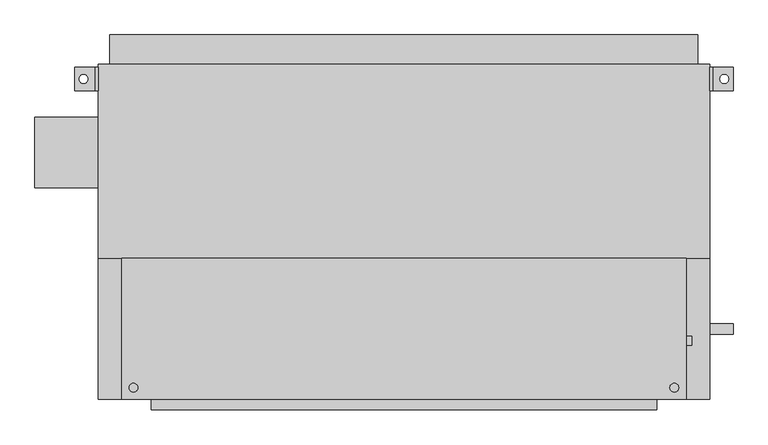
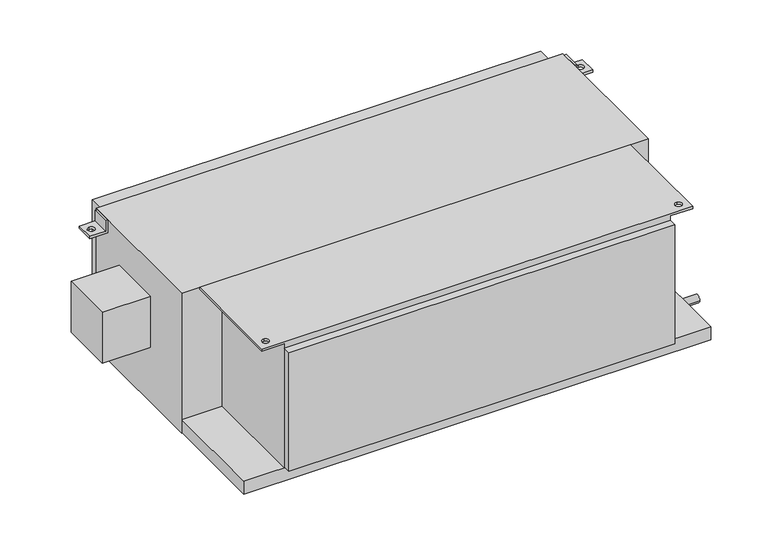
"""IFC4 building model written with IfcOpenShell, lengths in millimetres: proxy geometry, Concealed_High_Capacity_Horizontal_Fan_Coil_Unit_With_Plenum_-_42DCA_-_CARRIER_-_2-Pipe_Cool-EHeat_RH_2022 : Size 18 - 277v/60Hz/1Ph - 6 Row 12.0kW."""

from ifc_helpers import new_model, si_unit, point, frame, frame_2d, origin, place, context, project, spatial, polyline, circle_curve, trimmed, segment, composite_curve, outline, extrude, source, transform, mapped, element, save
from ifc_brep_helpers import plane_surface, revolved_surface, advanced_brep


def mechanical_equipment_08b20254(model_context):
    return source(origin(), model_context, "Body", "SolidModel", [
        advanced_brep(
        [(-508.0, 327.025, -38.1), (-558.8, 327.025, -38.1), (-558.8, 327.025, -31.75), (-514.35, 327.025, -31.75), (-514.35, 327.025, 0.0), (-508.0, 327.025, 0.0), (-508.0, 276.225, -38.1), (-508.0, 276.225, 0.0), (-514.35, 276.225, 0.0), (-514.35, 276.225, -31.75), (-558.8, 276.225, -31.75), (-558.8, 276.225, -38.1), (-539.75, 292.1, -38.1), (-539.75, 311.15, -38.1), (-539.75, 311.15, -31.75), (-539.75, 292.1, -31.75)],
        [
            (0, 1),
            (1, 2),
            (2, 3),
            (3, 4),
            (4, 5),
            (5, 0),
            (6, 7),
            (7, 8),
            (8, 9),
            (9, 10),
            (10, 11),
            (11, 6),
            (0, 6),
            (11, 1),
            (12, 13, circle_curve(frame((-539.75, 301.625, -38.1), z_axis=(0.0, 0.0, 1.0), x_axis=(0.0, -1.0, 0.0)), 9.525)),
            (13, 12, circle_curve(frame((-539.75, 301.625, -38.1), z_axis=(0.0, 0.0, 1.0), x_axis=(0.0, -1.0, 0.0)), 9.525)),
            (10, 2),
            (9, 3),
            (14, 15, circle_curve(frame((-539.75, 301.625, -31.75), z_axis=(0.0, 0.0, -1.0), x_axis=(0.0, -1.0, 0.0)), 9.525)),
            (15, 14, circle_curve(frame((-539.75, 301.625, -31.75), z_axis=(0.0, 0.0, -1.0), x_axis=(0.0, -1.0, 0.0)), 9.525)),
            (8, 4),
            (7, 5),
            (14, 13),
            (12, 15),
        ],
        [
            plane_surface(frame((-508.0, 327.025, -38.1), z_axis=(0.0, 1.0, 0.0), x_axis=(-1.0, 0.0, 0.0))),
            plane_surface(frame((-508.0, 276.225, -38.1), z_axis=(0.0, -1.0, 0.0), x_axis=(1.0, 0.0, 0.0))),
            plane_surface(frame((-508.0, 327.025, -38.1), z_axis=(0.0, 0.0, -1.0), x_axis=(0.0, -1.0, 0.0))),
            plane_surface(frame((-558.8, 327.025, -38.1), z_axis=(-1.0, 0.0, 0.0), x_axis=(0.0, -1.0, 0.0))),
            plane_surface(frame((-558.8, 327.025, -31.75), z_axis=(0.0, 0.0, 1.0), x_axis=(0.0, -1.0, 0.0))),
            plane_surface(frame((-514.35, 327.025, -31.75), z_axis=(-1.0, 0.0, 0.0), x_axis=(0.0, -1.0, 0.0))),
            plane_surface(frame((-514.35, 327.025, 0.0), z_axis=(0.0, 0.0, 1.0), x_axis=(0.0, -1.0, 0.0))),
            plane_surface(frame((-508.0, 327.025, 0.0), z_axis=(1.0, 0.0, 0.0), x_axis=(0.0, -1.0, 0.0))),
            revolved_surface(polyline([(-539.75, 292.1, -38.1), (-539.75, 292.1, -31.75)]), (-539.75, 301.625, -31.75), (0.0, 0.0, -1.0)),
        ],
        [
            (0, [[1, 2, 3, 4, 5, 6]]),
            (1, [[7, 8, 9, 10, 11, 12]]),
            (2, [[-1, 13, -12, 14], [15, 16]]),
            (3, [[-2, -14, -11, 17]]),
            (4, [[-3, -17, -10, 18], [19, 20]]),
            (5, [[-4, -18, -9, 21]]),
            (6, [[-5, -21, -8, 22]]),
            (7, [[-6, -22, -7, -13]]),
            (8, [[23, -15, 24, -19]]),
            (8, [[-23, -20, -24, -16]]),
        ],
    ),
        advanced_brep(
        [(812.8, 327.025, -38.1), (812.8, 327.025, 0.0), (819.15, 327.025, 0.0), (819.15, 327.025, -31.75), (863.6, 327.025, -31.75), (863.6, 327.025, -38.1), (812.8, 276.225, -38.1), (863.6, 276.225, -38.1), (863.6, 276.225, -31.75), (819.15, 276.225, -31.75), (819.15, 276.225, 0.0), (812.8, 276.225, 0.0), (844.55, 311.15, -31.75), (844.55, 292.1, -31.75), (844.55, 292.1, -38.1), (844.55, 311.15, -38.1)],
        [
            (0, 1),
            (1, 2),
            (2, 3),
            (3, 4),
            (4, 5),
            (5, 0),
            (6, 7),
            (7, 8),
            (8, 9),
            (9, 10),
            (10, 11),
            (11, 6),
            (0, 6),
            (11, 1),
            (10, 2),
            (9, 3),
            (8, 4),
            (12, 13, circle_curve(frame((844.55, 301.625, -31.75), z_axis=(0.0, 0.0, -1.0), x_axis=(0.0, -1.0, 0.0)), 9.525)),
            (13, 12, circle_curve(frame((844.55, 301.625, -31.75), z_axis=(0.0, 0.0, -1.0), x_axis=(0.0, -1.0, 0.0)), 9.525)),
            (7, 5),
            (14, 15, circle_curve(frame((844.55, 301.625, -38.1), z_axis=(0.0, 0.0, 1.0), x_axis=(0.0, -1.0, 0.0)), 9.525)),
            (15, 14, circle_curve(frame((844.55, 301.625, -38.1), z_axis=(0.0, 0.0, 1.0), x_axis=(0.0, -1.0, 0.0)), 9.525)),
            (12, 15),
            (14, 13),
        ],
        [
            plane_surface(frame((-508.0, 327.025, -38.1), z_axis=(0.0, 1.0, 0.0), x_axis=(-1.0, 0.0, 0.0))),
            plane_surface(frame((-508.0, 276.225, -38.1), z_axis=(0.0, -1.0, 0.0), x_axis=(1.0, 0.0, 0.0))),
            plane_surface(frame((812.8, 327.025, -38.1), z_axis=(-1.0, 0.0, 0.0), x_axis=(0.0, -1.0, 0.0))),
            plane_surface(frame((812.8, 327.025, 0.0), z_axis=(0.0, 0.0, 1.0), x_axis=(0.0, -1.0, 0.0))),
            plane_surface(frame((819.15, 327.025, 0.0), z_axis=(1.0, 0.0, 0.0), x_axis=(0.0, -1.0, 0.0))),
            plane_surface(frame((819.15, 327.025, -31.75), z_axis=(0.0, 0.0, 1.0), x_axis=(0.0, -1.0, 0.0))),
            plane_surface(frame((863.6, 327.025, -31.75), z_axis=(1.0, 0.0, 0.0), x_axis=(0.0, -1.0, 0.0))),
            plane_surface(frame((863.6, 327.025, -38.1), z_axis=(0.0, 0.0, -1.0), x_axis=(0.0, -1.0, 0.0))),
            revolved_surface(polyline([(844.55, 292.1, -38.1), (844.55, 292.1, -31.75)]), (844.55, 301.625, -31.75), (0.0, 0.0, -1.0)),
        ],
        [
            (0, [[1, 2, 3, 4, 5, 6]]),
            (1, [[7, 8, 9, 10, 11, 12]]),
            (2, [[-1, 13, -12, 14]]),
            (3, [[-2, -14, -11, 15]]),
            (4, [[-3, -15, -10, 16]]),
            (5, [[-4, -16, -9, 17], [18, 19]]),
            (6, [[-5, -17, -8, 20]]),
            (7, [[-6, -20, -7, -13], [21, 22]]),
            (8, [[23, -21, 24, -18]]),
            (8, [[-23, -19, -24, -22]]),
        ],
    ),
        advanced_brep(
        [(698.5, -85.725, -377.825), (698.5, -390.525, -377.825), (-393.7, -390.525, -377.825), (-393.7, -85.725, -377.825), (-393.7, -390.525, -6.35), (-393.7, -85.725, -6.35), (698.5, -85.725, -6.35), (698.5, -390.525, -6.35), (-457.2, -85.725, -6.35), (-457.2, -390.525, -6.35), (-431.8, -355.6, -6.35), (-431.8, -374.65, -6.35), (762.0, -85.725, -6.35), (762.0, -390.525, -6.35), (736.6, -355.6, -6.35), (736.6, -374.65, -6.35), (-457.2, -85.725, 0.0), (-457.2, -390.525, 0.0), (762.0, -390.525, 0.0), (762.0, -85.725, 0.0), (-431.8, -374.65, 0.0), (-431.8, -355.6, 0.0), (736.6, -374.65, 0.0), (736.6, -355.6, 0.0)],
        [
            (0, 1),
            (1, 2),
            (2, 3),
            (3, 0),
            (2, 4),
            (4, 5),
            (5, 3),
            (0, 6),
            (6, 7),
            (7, 1),
            (8, 5),
            (4, 9),
            (9, 8),
            (10, 11, circle_curve(frame((-431.8, -365.125, -6.35), z_axis=(0.0, 0.0, 1.0), x_axis=(0.0, 1.0, 0.0)), 9.525)),
            (11, 10, circle_curve(frame((-431.8, -365.125, -6.35), z_axis=(0.0, 0.0, 1.0), x_axis=(0.0, 1.0, 0.0)), 9.525)),
            (12, 13),
            (13, 7),
            (6, 12),
            (14, 15, circle_curve(frame((736.6, -365.125, -6.35), z_axis=(0.0, 0.0, 1.0), x_axis=(0.0, 1.0, 0.0)), 9.525)),
            (15, 14, circle_curve(frame((736.6, -365.125, -6.35), z_axis=(0.0, 0.0, 1.0), x_axis=(0.0, 1.0, 0.0)), 9.525)),
            (16, 17),
            (17, 18),
            (18, 19),
            (19, 16),
            (20, 21, circle_curve(frame((-431.8, -365.125, 0.0), z_axis=(0.0, 0.0, -1.0), x_axis=(0.0, 1.0, 0.0)), 9.525)),
            (21, 20, circle_curve(frame((-431.8, -365.125, 0.0), z_axis=(0.0, 0.0, -1.0), x_axis=(0.0, 1.0, 0.0)), 9.525)),
            (22, 23, circle_curve(frame((736.6, -365.125, 0.0), z_axis=(0.0, 0.0, -1.0), x_axis=(0.0, 1.0, 0.0)), 9.525)),
            (23, 22, circle_curve(frame((736.6, -365.125, 0.0), z_axis=(0.0, 0.0, -1.0), x_axis=(0.0, 1.0, 0.0)), 9.525)),
            (9, 17),
            (16, 8),
            (13, 18),
            (19, 12),
            (20, 11),
            (10, 21),
            (22, 15),
            (14, 23),
        ],
        [
            plane_surface(frame((-393.7, -85.725, -377.825), z_axis=(0.0, 0.0, -1.0), x_axis=(1.0, 0.0, 0.0))),
            plane_surface(frame((-393.7, -85.725, 0.0), z_axis=(-1.0, 0.0, 0.0), x_axis=(0.0, 0.0, -1.0))),
            plane_surface(frame((698.5, -390.525, 0.0), z_axis=(1.0, 0.0, 0.0), x_axis=(0.0, 0.0, -1.0))),
            plane_surface(frame((-457.2, -85.725, -6.35), z_axis=(0.0, 0.0, -1.0), x_axis=(0.0, 1.0, 0.0))),
            plane_surface(frame((-457.2, -85.725, 0.0), z_axis=(0.0, 0.0, 1.0), x_axis=(0.0, -1.0, 0.0))),
            plane_surface(frame((-457.2, -85.725, 0.0), z_axis=(-1.0, 0.0, 0.0), x_axis=(0.0, 0.0, -1.0))),
            plane_surface(frame((-457.2, -390.525, 0.0), z_axis=(0.0, -1.0, 0.0), x_axis=(0.0, 0.0, -1.0))),
            plane_surface(frame((-393.7, -85.725, 0.0), z_axis=(0.0, 1.0, 0.0), x_axis=(0.0, 0.0, -1.0))),
            plane_surface(frame((762.0, -390.525, 0.0), z_axis=(1.0, 0.0, 0.0), x_axis=(0.0, 0.0, -1.0))),
            revolved_surface(polyline([(-431.8, -355.6, -6.35), (-431.8, -355.6, 0.0)]), (-431.8, -365.125, 0.0), (0.0, 0.0, -1.0)),
            revolved_surface(polyline([(736.6, -355.6, -6.35), (736.6, -355.6, 0.0)]), (736.6, -365.125, 0.0), (0.0, 0.0, -1.0)),
        ],
        [
            (0, [[1, 2, 3, 4]]),
            (1, [[-3, 5, 6, 7]]),
            (2, [[-1, 8, 9, 10]]),
            (3, [[11, -6, 12, 13], [14, 15]]),
            (3, [[16, 17, -9, 18], [19, 20]]),
            (4, [[21, 22, 23, 24], [25, 26], [27, 28]]),
            (5, [[-13, 29, -21, 30]]),
            (6, [[-12, -5, -2, -10, -17, 31, -22, -29]]),
            (7, [[-11, -30, -24, 32, -18, -8, -4, -7]]),
            (8, [[-16, -32, -23, -31]]),
            (9, [[33, -14, 34, -25]]),
            (9, [[-33, -26, -34, -15]]),
            (10, [[35, -19, 36, -27]]),
            (10, [[-35, -28, -36, -20]]),
        ],
    ),
        extrude(outline(polyline([(-482.6, 396.875), (787.4, 396.875), (787.4, 333.375), (-482.6, 333.375), (-482.6, 396.875)])), frame((0.0, 0.0, -381.0), z_axis=(0.0, 0.0, 1.0), x_axis=(1.0, 0.0, 0.0)), (0.0, 0.0, 1.0), 358.775),
        extrude(outline(composite_curve([segment(trimmed(circle_curve(frame_2d((-263.525, -76.2)), 9.525), [point((-254.0, -76.2))], [point((-273.05, -76.2))], False, "CARTESIAN"), True, "CONTINUOUS"), segment(trimmed(circle_curve(frame_2d((-263.525, -76.2)), 9.525), [point((-273.05, -76.2))], [point((-254.0, -76.2))], False, "CARTESIAN"), True, "CONTINUOUS")], self_intersect=False)), frame((698.5, 0.0, 0.0), z_axis=(1.0, 0.0, 0.0), x_axis=(0.0, 1.0, 0.0)), (0.0, 0.0, 1.0), 76.2),
        extrude(outline(composite_curve([segment(trimmed(circle_curve(frame_2d((-263.525, -301.625)), 9.525), [point((-254.0, -301.625))], [point((-273.05, -301.625))], False, "CARTESIAN"), True, "CONTINUOUS"), segment(trimmed(circle_curve(frame_2d((-263.525, -301.625)), 9.525), [point((-273.05, -301.625))], [point((-254.0, -301.625))], False, "CARTESIAN"), True, "CONTINUOUS")], self_intersect=False)), frame((698.5, 0.0, 0.0), z_axis=(1.0, 0.0, 0.0), x_axis=(0.0, 1.0, 0.0)), (0.0, 0.0, 1.0), 76.2),
        extrude(outline(composite_curve([segment(trimmed(circle_curve(frame_2d((-238.125, -403.225)), 11.1125), [point((-227.0125, -403.225))], [point((-249.2375, -403.225))], False, "CARTESIAN"), True, "CONTINUOUS"), segment(trimmed(circle_curve(frame_2d((-238.125, -403.225)), 11.1125), [point((-249.2375, -403.225))], [point((-227.0125, -403.225))], False, "CARTESIAN"), True, "CONTINUOUS")], self_intersect=False)), frame((812.8, 0.0, 0.0), z_axis=(1.0, 0.0, 0.0), x_axis=(0.0, 1.0, 0.0)), (0.0, 0.0, 1.0), 50.8),
        extrude(outline(polyline([(-644.525, 66.675), (-644.525, 219.075), (-508.0, 219.075), (-508.0, 66.675), (-644.525, 66.675)])), frame((0.0, 0.0, -254.0), z_axis=(0.0, 0.0, 1.0), x_axis=(1.0, 0.0, 0.0)), (0.0, 0.0, 1.0), 152.4),
        extrude(outline(polyline([(698.5, -412.75), (-393.7, -412.75), (-393.7, -390.525), (698.5, -390.525), (698.5, -412.75)])), frame((0.0, 0.0, -374.65), z_axis=(0.0, 0.0, 1.0), x_axis=(1.0, 0.0, 0.0)), (0.0, 0.0, 1.0), 355.6),
        extrude(outline(polyline([(812.8, -85.725), (-508.0, -85.725), (-508.0, 333.375), (812.8, 333.375), (812.8, -85.725)])), frame((0.0, 0.0, -419.1), z_axis=(0.0, 0.0, 1.0), x_axis=(1.0, 0.0, 0.0)), (0.0, 0.0, 1.0), 419.1),
        extrude(outline(polyline([(812.8, -85.725), (812.8, -390.525), (-508.0, -390.525), (-508.0, -85.725), (812.8, -85.725)])), frame((0.0, 0.0, -415.925), z_axis=(0.0, 0.0, 1.0), x_axis=(1.0, 0.0, 0.0)), (0.0, 0.0, 1.0), 38.1),
    ])


if __name__ == "__main__":
    model = new_model("IFC4")
    model_context = context("Model", 3, world=origin())
    ifc_project = project(units=[si_unit("LENGTHUNIT", "METRE", prefix="MILLI")], contexts=[model_context])
    site = spatial("IfcSite", under=ifc_project)
    building = spatial("IfcBuilding", under=site)
    placement = place(None, origin())
    mechanical_equipment_shape = mechanical_equipment_08b20254(model_context)
    element("IfcBuildingElementProxy", 1, Name="Concealed_High_Capacity_Horizontal_Fan_Coil_Unit_With_Plenum_-_42DCA_-_CARRIER_-_2-Pipe_Cool-EHeat_RH_2022 : Size 18 - 277v/60Hz/1Ph - 6 Row 12.0kW", ObjectType="Concealed_High_Capacity_Horizontal_Fan_Coil_Unit_With_Plenum_-_42DCA_-_CARRIER_-_2-Pipe_Cool-EHeat_RH_2022 : Size 18 - 277v/60Hz/1Ph - 6 Row 12.0kW", at=placement, inside=building, context=model_context, shape_type="MappedRepresentation", body=[
        mapped(mechanical_equipment_shape, transform((0.0, 0.0, 0.0), x_axis=(1.0, 0.0, 0.0), y_axis=(0.0, 1.0, 0.0), z_axis=(0.0, 0.0, 1.0))),
    ])
    save(model, "model.ifc")
